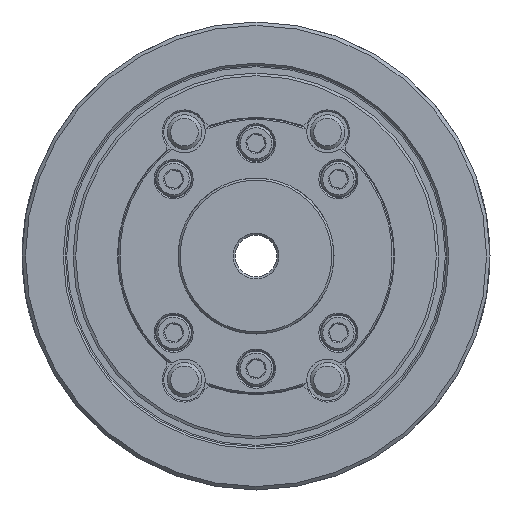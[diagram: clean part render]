
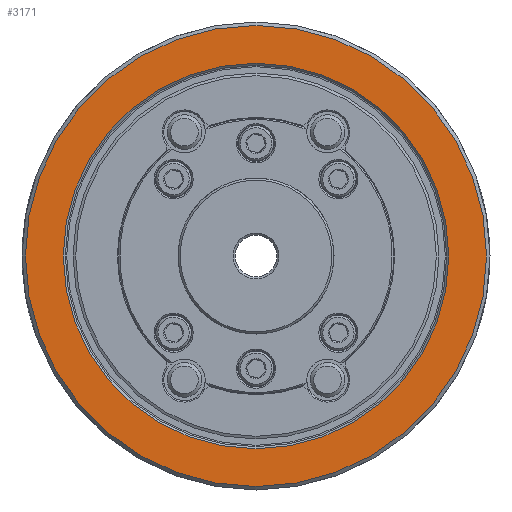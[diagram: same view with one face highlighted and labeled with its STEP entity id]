
A CAD part, left-side view. The second image highlights one B-rep face of the part: STEP entity #3171.
In plain terms, the highlighted planar face has unit normal (-1, 0, 0).
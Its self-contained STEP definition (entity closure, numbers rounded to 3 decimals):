
#3171 = ADVANCED_FACE ( 'NONE', ( #61748, #8405 ), #13919, .F. ) ;
#8405 = FACE_BOUND ( 'NONE', #58229, .T. ) ;
#8947 = VERTEX_POINT ( 'NONE', #29942 ) ;
#11885 = CIRCLE ( 'NONE', #50388, 66.5 ) ;
#13919 = PLANE ( 'NONE',  #42020 ) ;
#14590 = DIRECTION ( 'NONE',  ( 1., 0., 0. ) ) ;
#14920 = DIRECTION ( 'NONE',  ( 0., 0., -1. ) ) ;
#16337 = EDGE_LOOP ( 'NONE', ( #26247 ) ) ;
#17739 = DIRECTION ( 'NONE',  ( 0., 0., -1. ) ) ;
#20439 = CARTESIAN_POINT ( 'NONE',  ( -60., 0., 0. ) ) ;
#26247 = ORIENTED_EDGE ( 'NONE', *, *, #26313, .F. ) ;
#26313 = EDGE_CURVE ( 'NONE', #8947, #8947, #11885, .T. ) ;
#28480 = VERTEX_POINT ( 'NONE', #55688 ) ;
#29942 = CARTESIAN_POINT ( 'NONE',  ( -60., 0., -66.5 ) ) ;
#31439 = DIRECTION ( 'NONE',  ( 0., 0., -1. ) ) ;
#36279 = DIRECTION ( 'NONE',  ( 1., 0., 0. ) ) ;
#38425 = CARTESIAN_POINT ( 'NONE',  ( -60., 0., 0. ) ) ;
#42020 = AXIS2_PLACEMENT_3D ( 'NONE', #66926, #14590, #14920 ) ;
#43240 = DIRECTION ( 'NONE',  ( 1., 0., 0. ) ) ;
#50388 = AXIS2_PLACEMENT_3D ( 'NONE', #38425, #43240, #17739 ) ;
#52036 = AXIS2_PLACEMENT_3D ( 'NONE', #20439, #36279, #31439 ) ;
#55688 = CARTESIAN_POINT ( 'NONE',  ( -60., 0., -55.6 ) ) ;
#56383 = CIRCLE ( 'NONE', #52036, 55.6 ) ;
#58229 = EDGE_LOOP ( 'NONE', ( #62020 ) ) ;
#61748 = FACE_OUTER_BOUND ( 'NONE', #16337, .T. ) ;
#62020 = ORIENTED_EDGE ( 'NONE', *, *, #66689, .T. ) ;
#66689 = EDGE_CURVE ( 'NONE', #28480, #28480, #56383, .T. ) ;
#66926 = CARTESIAN_POINT ( 'NONE',  ( -60., -55.6, 0. ) ) ;
